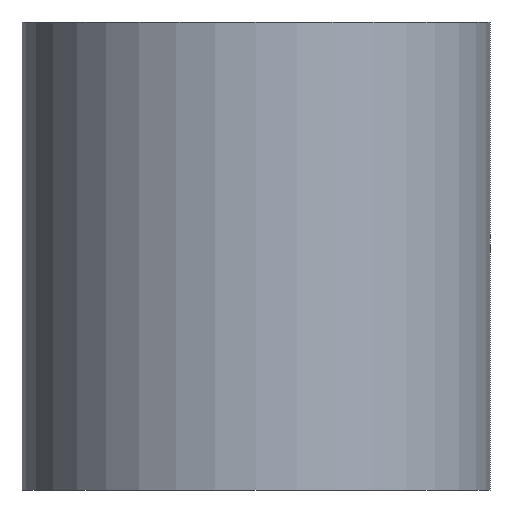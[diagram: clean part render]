
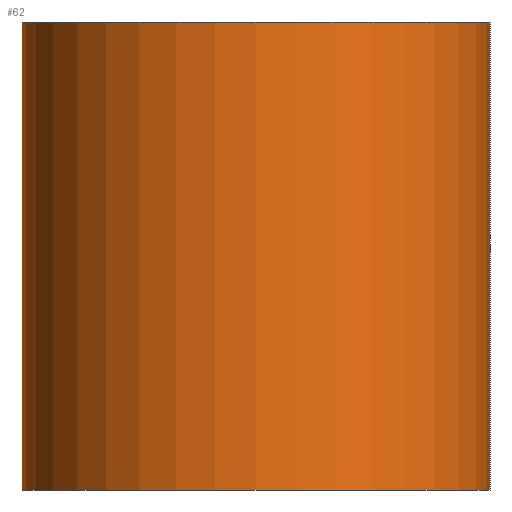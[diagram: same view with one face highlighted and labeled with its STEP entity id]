
A CAD part, front view. The second image highlights one B-rep face of the part: STEP entity #62.
In plain terms, the highlighted cylindrical face has radius 1.75 mm (diameter 3.5 mm), a full revolution.
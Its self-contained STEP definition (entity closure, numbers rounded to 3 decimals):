
#20=FACE_OUTER_BOUND('',#24,.T.);
#24=EDGE_LOOP('',(#51,#52,#53,#54));
#30=LINE('',#118,#32);
#32=VECTOR('',#100,1.75);
#35=CIRCLE('',#83,1.75);
#36=CIRCLE('',#84,1.75);
#39=VERTEX_POINT('',#115);
#40=VERTEX_POINT('',#117);
#44=EDGE_CURVE('',#39,#39,#35,.T.);
#45=EDGE_CURVE('',#39,#40,#30,.T.);
#46=EDGE_CURVE('',#40,#40,#36,.T.);
#51=ORIENTED_EDGE('',*,*,#44,.F.);
#52=ORIENTED_EDGE('',*,*,#45,.T.);
#53=ORIENTED_EDGE('',*,*,#46,.T.);
#54=ORIENTED_EDGE('',*,*,#45,.F.);
#60=CYLINDRICAL_SURFACE('',#82,1.75);
#62=ADVANCED_FACE('',(#20),#60,.T.);
#82=AXIS2_PLACEMENT_3D('',#114,#96,#97);
#83=AXIS2_PLACEMENT_3D('',#116,#98,#99);
#84=AXIS2_PLACEMENT_3D('',#119,#101,#102);
#96=DIRECTION('center_axis',(0.,0.,1.));
#97=DIRECTION('ref_axis',(1.,0.,0.));
#98=DIRECTION('center_axis',(0.,0.,1.));
#99=DIRECTION('ref_axis',(1.,0.,0.));
#100=DIRECTION('',(0.,0.,-1.));
#101=DIRECTION('center_axis',(0.,0.,1.));
#102=DIRECTION('ref_axis',(1.,0.,0.));
#114=CARTESIAN_POINT('Origin',(126.846,17.936,10.));
#115=CARTESIAN_POINT('',(125.096,17.936,13.5));
#116=CARTESIAN_POINT('Origin',(126.846,17.936,13.5));
#117=CARTESIAN_POINT('',(125.096,17.936,10.));
#118=CARTESIAN_POINT('',(125.096,17.936,10.));
#119=CARTESIAN_POINT('Origin',(126.846,17.936,10.));
